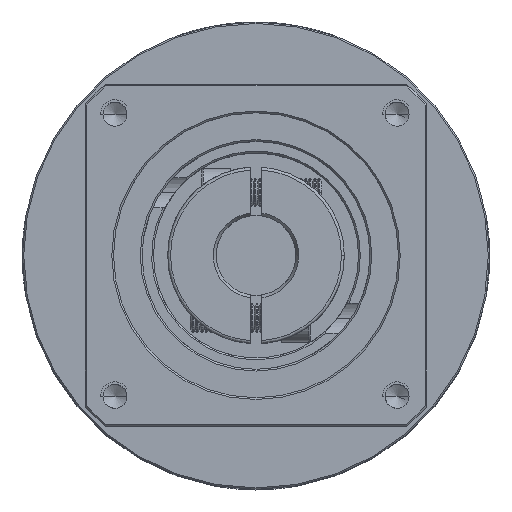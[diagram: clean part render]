
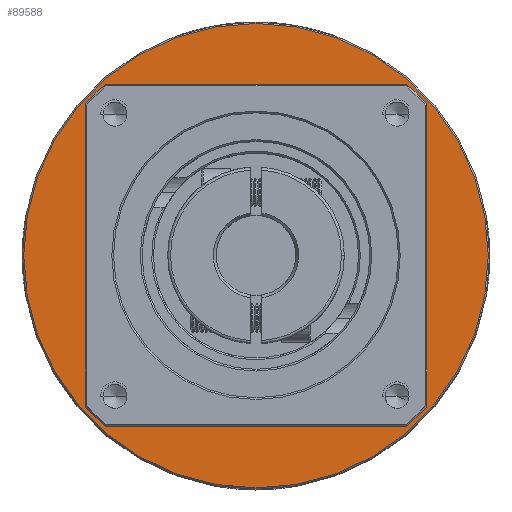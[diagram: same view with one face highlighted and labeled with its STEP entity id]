
A CAD part, top view. The second image highlights one B-rep face of the part: STEP entity #89588.
In plain terms, the highlighted planar face has unit normal (0, 0, 1).
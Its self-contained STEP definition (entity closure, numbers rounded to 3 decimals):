
#4264 = CARTESIAN_POINT ( 'NONE',  ( 14.548, -38.505, 34. ) ) ;
#20194 = AXIS2_PLACEMENT_3D ( 'NONE', #55162, #125725, #65319 ) ;
#20563 = VERTEX_POINT ( 'NONE', #4264 ) ;
#20763 = DIRECTION ( 'NONE',  ( 0., 0., -1. ) ) ;
#23493 = ORIENTED_EDGE ( 'NONE', *, *, #73225, .F. ) ;
#29740 = DIRECTION ( 'NONE',  ( 0., 0., 1. ) ) ;
#32628 = EDGE_CURVE ( 'NONE', #58401, #72814, #39619, .T. ) ;
#39619 = CIRCLE ( 'NONE', #102772, 30. ) ;
#45755 = CARTESIAN_POINT ( 'NONE',  ( 14.548, 2.245, 34. ) ) ;
#47207 = ORIENTED_EDGE ( 'NONE', *, *, #32628, .T. ) ;
#49645 = PLANE ( 'NONE',  #87961 ) ;
#50600 = CARTESIAN_POINT ( 'NONE',  ( 14.548, 2.245, 34. ) ) ;
#52557 = CARTESIAN_POINT ( 'NONE',  ( -15.452, 2.245, 34. ) ) ;
#55162 = CARTESIAN_POINT ( 'NONE',  ( 14.548, 2.245, 34. ) ) ;
#55904 = DIRECTION ( 'NONE',  ( -1., 0., 0. ) ) ;
#56737 = VERTEX_POINT ( 'NONE', #79788 ) ;
#58401 = VERTEX_POINT ( 'NONE', #52557 ) ;
#60776 = DIRECTION ( 'NONE',  ( -1., 0., 0. ) ) ;
#64117 = AXIS2_PLACEMENT_3D ( 'NONE', #45755, #116290, #55904 ) ;
#65319 = DIRECTION ( 'NONE',  ( 0., 1., 0. ) ) ;
#70709 = ORIENTED_EDGE ( 'NONE', *, *, #97132, .F. ) ;
#72814 = VERTEX_POINT ( 'NONE', #102509 ) ;
#73225 = EDGE_CURVE ( 'NONE', #20563, #56737, #95866, .T. ) ;
#76466 = FACE_OUTER_BOUND ( 'NONE', #88503, .T. ) ;
#79788 = CARTESIAN_POINT ( 'NONE',  ( 14.548, 42.995, 34. ) ) ;
#81341 = CARTESIAN_POINT ( 'NONE',  ( 14.548, 2.245, 34. ) ) ;
#85353 = ORIENTED_EDGE ( 'NONE', *, *, #89332, .T. ) ;
#87961 = AXIS2_PLACEMENT_3D ( 'NONE', #90232, #29740, #100355 ) ;
#88503 = EDGE_LOOP ( 'NONE', ( #70709, #23493 ) ) ;
#89195 = CIRCLE ( 'NONE', #64117, 30. ) ;
#89332 = EDGE_CURVE ( 'NONE', #72814, #58401, #89195, .T. ) ;
#89588 = ADVANCED_FACE ( 'NONE', ( #76466, #129973 ), #49645, .T. ) ;
#90232 = CARTESIAN_POINT ( 'NONE',  ( 14.548, 2.245, 34. ) ) ;
#91400 = DIRECTION ( 'NONE',  ( 0., 1., 0. ) ) ;
#95866 = CIRCLE ( 'NONE', #127566, 40.75 ) ;
#97132 = EDGE_CURVE ( 'NONE', #56737, #20563, #122421, .T. ) ;
#100355 = DIRECTION ( 'NONE',  ( 1., 0., 0. ) ) ;
#100733 = EDGE_LOOP ( 'NONE', ( #47207, #85353 ) ) ;
#102509 = CARTESIAN_POINT ( 'NONE',  ( 44.548, 2.245, 34. ) ) ;
#102772 = AXIS2_PLACEMENT_3D ( 'NONE', #50600, #121166, #60776 ) ;
#116290 = DIRECTION ( 'NONE',  ( 0., 0., -1. ) ) ;
#121166 = DIRECTION ( 'NONE',  ( 0., 0., -1. ) ) ;
#122421 = CIRCLE ( 'NONE', #20194, 40.75 ) ;
#125725 = DIRECTION ( 'NONE',  ( 0., 0., -1. ) ) ;
#127566 = AXIS2_PLACEMENT_3D ( 'NONE', #81341, #20763, #91400 ) ;
#129973 = FACE_BOUND ( 'NONE', #100733, .T. ) ;
